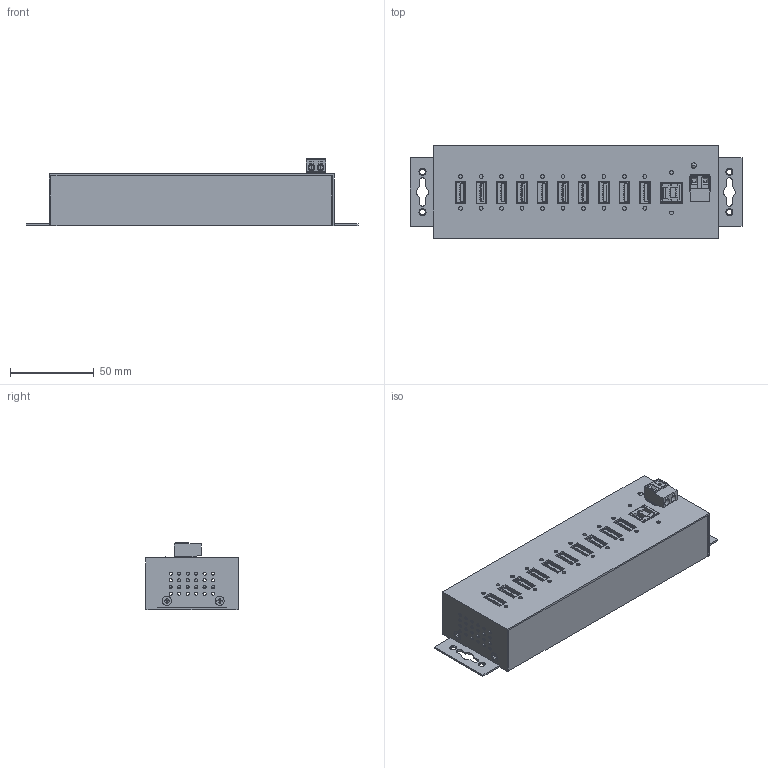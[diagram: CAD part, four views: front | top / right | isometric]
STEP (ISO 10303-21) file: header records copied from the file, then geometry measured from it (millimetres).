
FILE_DESCRIPTION(('FreeCAD Model'),'2;1');
FILE_NAME('X:/Technische Zeichnungen/EX-1510HMS/EX-1510HMS_3D.step', '2019-11-27T15:55:30',('Author'),(''), 'Open CASCADE STEP processor 6.8','FreeCAD','Unknown');
FILE_SCHEMA(('AUTOMOTIVE_DESIGN_CC2 { 1 2 10303 214 -1 1 5 4 }'));
Products named in the file (1): EX-1510HMS_3D
Bounding box: 198 x 55 x 40.06 mm (x, y, z)
Volume: 61862.2 mm3; surface area: 108597.2 mm2
Topology: 3 solids, 8 shells, 4105 faces, 11392 edges, 7512 vertices
Faces by surface type: plane 3098, cylinder 813, cone 109, torus 73, sphere 12
Full cylindrical faces by diameter (mm): 1.567 x2, 1.9 x48, 2 x3, 2.2 x22, 2.4 x16, 3 x1, 3.2 x5, 3.4 x5, 4 x5, 5.3 x5
Entity records: 405729 total; most frequent: CARTESIAN_POINT 161319, DIRECTION 36242, ORIENTED_EDGE 22760, PCURVE 22760, DEFINITIONAL_REPRESENTATION 22760, LINE 22739, VECTOR 22739, EDGE_CURVE 11380
